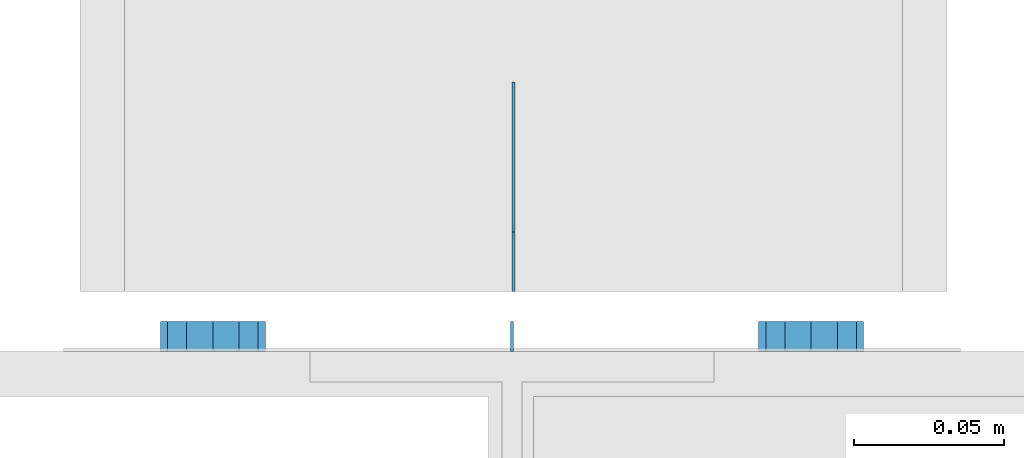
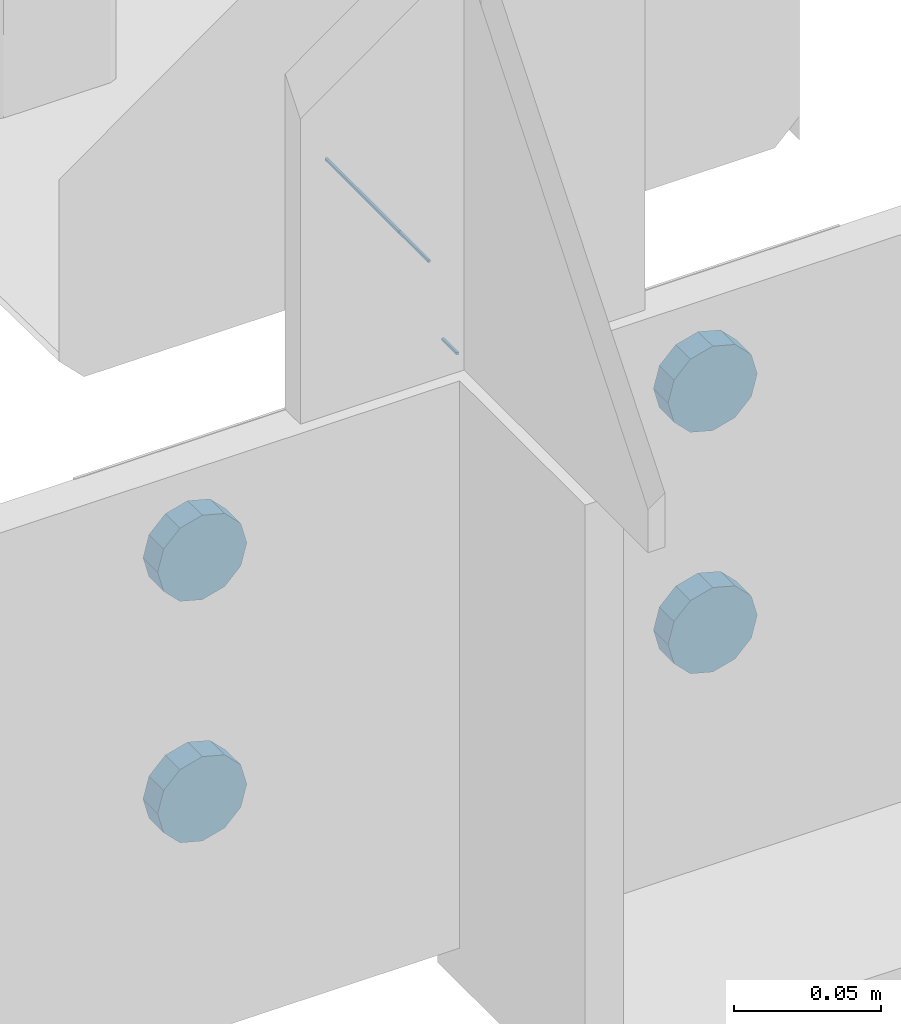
# One storey, part 64 of 186: 7 beams.
"""IFC4X3_ADD2 building model written with IfcOpenShell, lengths in millimetres."""

from ifc_helpers import new_model, si_unit, direction, frame, frame_2d, origin_with_axes, place, context, subcontext, project, spatial, indexed_curve, rectangle, outline, extrude, material, element, save


model = new_model("IFC4X3_ADD2")

# Units and contexts
model_context = context("Model", 3, precision=1e-05, world=origin_with_axes(), true_north=direction((0.0, 1.0)))
body_context = subcontext(model_context, "Body", "Model", "MODEL_VIEW")
ifc_project = project(units=[si_unit("LENGTHUNIT", "METRE", prefix="MILLI"), si_unit("AREAUNIT", "SQUARE_METRE"), si_unit("VOLUMEUNIT", "CUBIC_METRE"), si_unit("PLANEANGLEUNIT", "RADIAN"), si_unit("TIMEUNIT", "SECOND"), si_unit("MASSUNIT", "GRAM")], contexts=[model_context])

# Site, building, storey
site_placement = place(None, origin_with_axes())
site = spatial("IfcSite", under=ifc_project, at=site_placement, Name="Site", CompositionType="ELEMENT")
building_placement = place(site_placement, origin_with_axes())
building = spatial("IfcBuilding", under=site, at=building_placement, Name="IFC Building Story")
storey_placement = place(building_placement, frame((0.0, 0.0, 4370.0), z_axis=(0.0, 0.0, 1.0), x_axis=(1.0, 0.0, 0.0)))
storey = spatial("IfcBuildingStorey", under=building, at=storey_placement, Name="ETAGE 10 (1)", Elevation=4370.0)

# Beams
ifc_material_1 = material(Name="STEEL/Accessory_invisible")
beam_1_placement = place(storey_placement, frame((22155.191461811, 5.00106811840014, 4079.500419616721), z_axis=(1.0, 0.0, 0.0), x_axis=(0.0, 0.0, -1.0)))
element("IfcBeam", 1, at=beam_1_placement, inside=storey, material=ifc_material_1, Name="ZW1", ObjectType="1*1 9", context=body_context, shape_type="SweptSolid", body=[
    extrude(rectangle(XDim=0.9999999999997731, YDim=10.0, at=frame_2d((0.0, 5.95523630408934e-12), x_axis=(1.0, 0.0))), origin_with_axes(), (0.0, 0.0, 1.0), 0.999999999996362),
])
beam_2_placement = place(storey_placement, frame((22155.689, 65.00024835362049, 4105.40274340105), z_axis=(1.0, 0.0, 0.0), x_axis=(0.0, 0.0, -1.0)))
element("IfcBeam", 2, at=beam_2_placement, inside=storey, material=ifc_material_1, Name="ZW1", ObjectType="1*1 14", context=body_context, shape_type="SweptSolid", body=[
    extrude(rectangle(XDim=0.9999999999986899, YDim=50.0, at=frame_2d((0.0, 5.95523630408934e-12), x_axis=(1.0, 0.0))), origin_with_axes(), (0.0, 0.0, 1.0), 1.0),
])
ifc_material_2 = material(Name="STEEL/Accessory_invisible 261")
beam_3_placement = place(storey_placement, frame((22155.689, 30.0002483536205, 4105.40274340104), z_axis=(1.0, 0.0, 0.0), x_axis=(0.0, 0.0, -1.0)))
element("IfcBeam", 3, at=beam_3_placement, inside=storey, material=ifc_material_2, Name="PR10", ObjectType="1*1 13", context=body_context, shape_type="SweptSolid", body=[
    extrude(rectangle(XDim=0.9999999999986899, YDim=20.0, at=frame_2d((0.0, 5.95523630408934e-12), x_axis=(1.0, 0.0))), origin_with_axes(), (0.0, 0.0, 1.0), 1.0),
])
ifc_material_3 = material(Name="STEEL/Accessory_Hole_Concrete 8616")
for number, where, z_axis, x_axis, name in (
    (4, (22055.691461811, 10.0010681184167, 4030.000419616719), (0.0, -1.0, 0.0), (-0.2588190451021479, 0.0, 0.9659258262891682), "ZW9"),
    (5, (22255.69146181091, 10.0010681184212, 4030.000419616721), (0.0, -1.0, 0.0), (-0.2588190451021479, 0.0, 0.9659258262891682), "ZW9"),
    (6, (22255.691461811, 10.0010681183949, 3930.000419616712), (0.0, -1.0, 0.0), (-0.2588190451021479, 0.0, 0.9659258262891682), "ZW9"),
):
    element("IfcBeam", number, at=place(storey_placement, frame(where, z_axis=z_axis, x_axis=x_axis)), inside=storey, material=ifc_material_3, Name=name, ObjectType="D35", context=body_context, shape_type="SweptSolid", body=[
        extrude(outline(indexed_curve([(-12.37436867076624, -12.37436867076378), (-16.90370196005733, -4.529333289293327), (-16.90370196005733, 4.529333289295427), (-12.37436867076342, 12.37436867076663), (-4.52933328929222, 16.90370196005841), (4.529333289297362, 16.90370196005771), (12.374368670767, 12.37436867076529), (16.90370196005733, 4.529333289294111), (16.90370196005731, -4.529333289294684), (12.37436867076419, -12.37436867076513), (4.529333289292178, -16.90370196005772), (-4.529333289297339, -16.90370196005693), (-12.37436867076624, -12.37436867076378)])), origin_with_axes(), (0.0, 0.0, 1.0), 10.0),
    ])
beam_4_placement = place(storey_placement, frame((22055.691461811, 10.0010681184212, 3930.000419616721), z_axis=(0.0, -1.0, 0.0), x_axis=(-0.2588190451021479, 0.0, 0.9659258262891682)))
element("IfcBeam", 7, at=beam_4_placement, inside=storey, material=ifc_material_3, Name="ZW9", ObjectType="D35", context=body_context, shape_type="SweptSolid", body=[
    extrude(outline(indexed_curve([(-12.37436867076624, -12.37436867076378), (-16.90370196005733, -4.529333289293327), (-16.90370196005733, 4.529333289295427), (-12.37436867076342, 12.37436867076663), (-4.52933328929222, 16.90370196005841), (4.529333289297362, 16.90370196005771), (12.374368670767, 12.37436867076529), (16.90370196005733, 4.529333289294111), (16.90370196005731, -4.529333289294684), (12.37436867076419, -12.37436867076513), (4.529333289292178, -16.90370196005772), (-4.529333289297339, -16.90370196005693), (-12.37436867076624, -12.37436867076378)])), origin_with_axes(), (0.0, 0.0, 1.0), 9.999999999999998),
])

save(model, "model.ifc")
